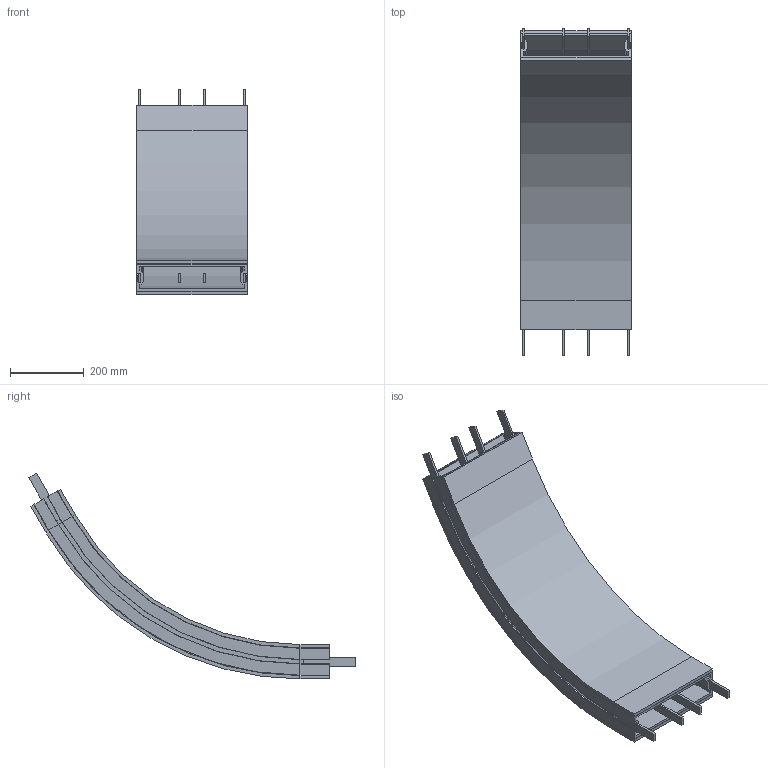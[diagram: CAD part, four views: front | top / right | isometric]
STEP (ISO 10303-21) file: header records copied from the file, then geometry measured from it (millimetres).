
FILE_DESCRIPTION (( 'STEP AP214' ), '1' );
FILE_NAME ('FBBV 60A300R750L80L80.00.step', '2026-05-29T10:33:43', ( '' ), ( '' ), 'SwSTEP 2.0', 'SolidWorks 2024', '' );
FILE_SCHEMA (( 'AUTOMOTIVE_DESIGN' ));
Length unit declared in the file: millimetre
Products named in the file (1): FBBV 60A300R750L80L80.00
Bounding box: 300 x 885.34 x 557.65 mm (x, y, z)
Volume: 10377077.4 mm3; surface area: 2720582.4 mm2
Topology: 11 solids, 11 shells, 375 faces, 845 edges, 492 vertices
Faces by surface type: plane 278, cone 66, cylinder 26, torus 5
Entity records: 10191 total; most frequent: DIRECTION 1724, CARTESIAN_POINT 1713, ORIENTED_EDGE 1690, EDGE_CURVE 845, LINE 718, VECTOR 718, AXIS2_PLACEMENT_3D 503, VERTEX_POINT 492
